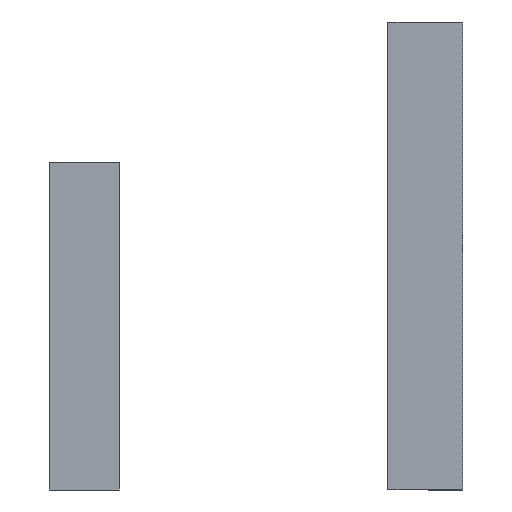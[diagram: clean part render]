
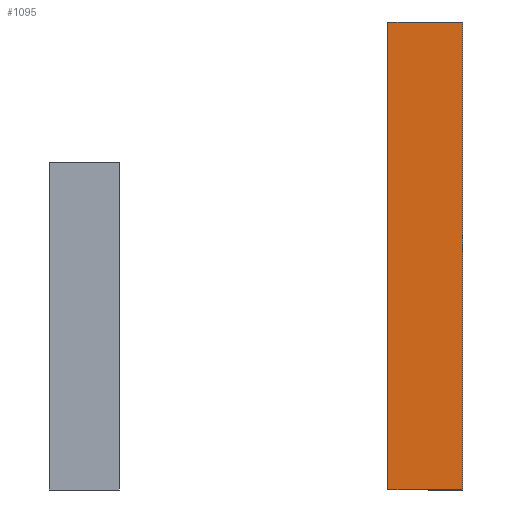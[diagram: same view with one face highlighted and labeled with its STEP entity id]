
A CAD part, front view. The second image highlights one B-rep face of the part: STEP entity #1095.
In plain terms, the highlighted planar face has unit normal (0, -1, 0).
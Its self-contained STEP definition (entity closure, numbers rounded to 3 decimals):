
#35=PLANE('',#1179);
#89=FACE_OUTER_BOUND('',#155,.T.);
#155=EDGE_LOOP('',(#805,#806,#807,#808));
#294=LINE('',#1930,#368);
#306=LINE('',#1954,#380);
#310=LINE('',#2125,#384);
#311=LINE('',#2129,#385);
#368=VECTOR('',#1286,10.);
#380=VECTOR('',#1306,10.);
#384=VECTOR('',#1312,10.);
#385=VECTOR('',#1317,10.);
#461=VERTEX_POINT('',#1927);
#462=VERTEX_POINT('',#1929);
#470=VERTEX_POINT('',#1953);
#472=VERTEX_POINT('',#2123);
#581=EDGE_CURVE('',#462,#461,#294,.T.);
#593=EDGE_CURVE('',#470,#462,#306,.T.);
#599=EDGE_CURVE('',#461,#472,#310,.T.);
#601=EDGE_CURVE('',#472,#470,#311,.T.);
#805=ORIENTED_EDGE('',*,*,#593,.T.);
#806=ORIENTED_EDGE('',*,*,#581,.T.);
#807=ORIENTED_EDGE('',*,*,#599,.T.);
#808=ORIENTED_EDGE('',*,*,#601,.T.);
#1095=ADVANCED_FACE('',(#89),#35,.F.);
#1179=AXIS2_PLACEMENT_3D('',#2134,#1324,#1325);
#1286=DIRECTION('',(-1.,0.,0.));
#1306=DIRECTION('',(0.,0.,1.));
#1312=DIRECTION('',(0.,0.,-1.));
#1317=DIRECTION('',(1.,0.,0.));
#1324=DIRECTION('center_axis',(0.,1.,0.));
#1325=DIRECTION('ref_axis',(0.,0.,1.));
#1927=CARTESIAN_POINT('',(7.301,-6.698,-127.135));
#1929=CARTESIAN_POINT('',(11.43,-6.698,-127.135));
#1930=CARTESIAN_POINT('',(5.567,-6.698,-127.135));
#1953=CARTESIAN_POINT('',(11.43,-6.698,-153.037));
#1954=CARTESIAN_POINT('',(11.43,-6.698,-152.959));
#2123=CARTESIAN_POINT('',(7.302,-6.698,-153.037));
#2125=CARTESIAN_POINT('',(7.302,-6.698,-141.692));
#2129=CARTESIAN_POINT('',(0.5,-6.698,-153.037));
#2134=CARTESIAN_POINT('Origin',(1.,-6.698,-144.162));
